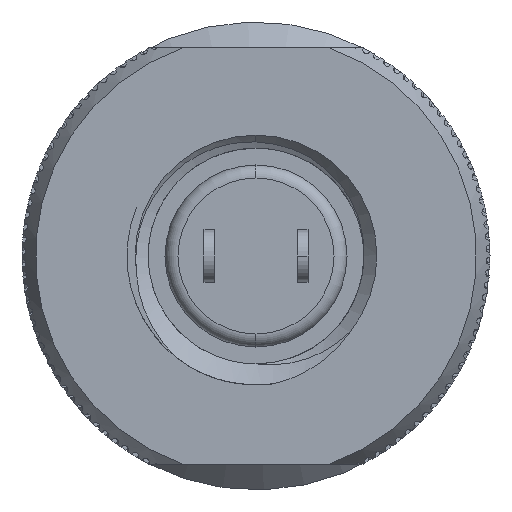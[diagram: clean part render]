
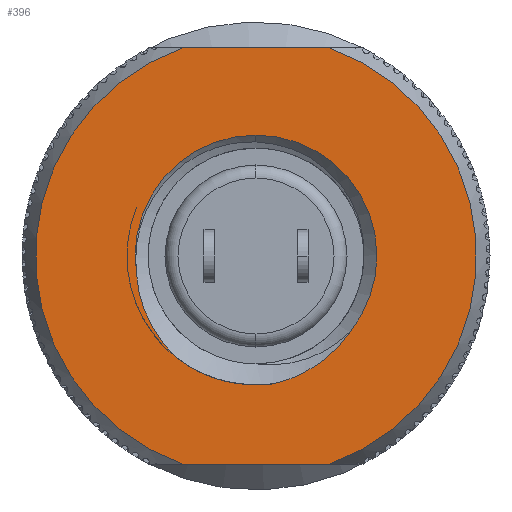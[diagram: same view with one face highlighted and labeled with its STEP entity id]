
A CAD part, front view. The second image highlights one B-rep face of the part: STEP entity #396.
In plain terms, the highlighted planar face has unit normal (0, -1, 0) as drawn and (0, 1, 0) by its records, which use the part's own axes.
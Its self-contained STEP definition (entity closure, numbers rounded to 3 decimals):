
#312 = DIRECTION ( 'NONE',  ( -1., 0., 0. ) ) ;
#396 = ADVANCED_FACE ( 'NONE', ( #5488, #5124 ), #18857, .T. ) ;
#470 = CARTESIAN_POINT ( 'NONE',  ( -4.65, 14.348, 0. ) ) ;
#589 = CARTESIAN_POINT ( 'NONE',  ( 0.768, 14.348, 4.586 ) ) ;
#1148 = EDGE_CURVE ( 'NONE', #6439, #2293, #4579, .T. ) ;
#1366 = CARTESIAN_POINT ( 'NONE',  ( 8., 14.348, 11.578 ) ) ;
#1416 = EDGE_CURVE ( 'NONE', #13871, #14166, #7498, .T. ) ;
#1490 = ORIENTED_EDGE ( 'NONE', *, *, #8226, .T. ) ;
#1795 = CIRCLE ( 'NONE', #11511, 4.65 ) ;
#1888 = DIRECTION ( 'NONE',  ( -1., 0., 0. ) ) ;
#2293 = VERTEX_POINT ( 'NONE', #20626 ) ;
#2348 = DIRECTION ( 'NONE',  ( 0., -1., 0. ) ) ;
#2822 = CARTESIAN_POINT ( 'NONE',  ( 4.758, 14.348, -1.252 ) ) ;
#3849 = AXIS2_PLACEMENT_3D ( 'NONE', #17059, #13110, #11343 ) ;
#3914 = CARTESIAN_POINT ( 'NONE',  ( 4.713, 14.348, 1.585 ) ) ;
#4146 = CARTESIAN_POINT ( 'NONE',  ( 4.317, 14.348, 2.467 ) ) ;
#4579 = CIRCLE ( 'NONE', #18800, 8.484 ) ;
#5124 = FACE_BOUND ( 'NONE', #18809, .T. ) ;
#5435 = CARTESIAN_POINT ( 'NONE',  ( 3.743, 14.348, 3.233 ) ) ;
#5488 = FACE_OUTER_BOUND ( 'NONE', #20587, .T. ) ;
#5508 = ORIENTED_EDGE ( 'NONE', *, *, #8568, .F. ) ;
#5612 = CARTESIAN_POINT ( 'NONE',  ( 2.932, 14.348, -3.609 ) ) ;
#5688 = ORIENTED_EDGE ( 'NONE', *, *, #16963, .T. ) ;
#5754 = CARTESIAN_POINT ( 'NONE',  ( 8., 14.348, -2.825 ) ) ;
#6201 = VERTEX_POINT ( 'NONE', #19757 ) ;
#6232 = DIRECTION ( 'NONE',  ( 0., 1., 0. ) ) ;
#6343 = VERTEX_POINT ( 'NONE', #589 ) ;
#6439 = VERTEX_POINT ( 'NONE', #7303 ) ;
#6778 = ORIENTED_EDGE ( 'NONE', *, *, #15198, .T. ) ;
#7303 = CARTESIAN_POINT ( 'NONE',  ( -8., 14.348, 2.825 ) ) ;
#7348 = CARTESIAN_POINT ( 'NONE',  ( 3.948, 14.348, 3.006 ) ) ;
#7498 = B_SPLINE_CURVE_WITH_KNOTS ( 'NONE', 3,
 ( #5612, #17307, #25060, #16800, #16371, #16629, #24261, #2822, #14473, #20452 ),
 .UNSPECIFIED., .F., .F.,
 ( 4, 2, 2, 2, 4 ),
 ( 0.005, 0.006, 0.007, 0.008, 0.009 ),
 .UNSPECIFIED. ) ;
#7710 = DIRECTION ( 'NONE',  ( 0., -1., 0. ) ) ;
#7724 = VERTEX_POINT ( 'NONE', #5754 ) ;
#8226 = EDGE_CURVE ( 'NONE', #14166, #9673, #22193, .T. ) ;
#8334 = CARTESIAN_POINT ( 'NONE',  ( 3.948, 14.348, 3.006 ) ) ;
#8358 = ORIENTED_EDGE ( 'NONE', *, *, #21823, .T. ) ;
#8491 = B_SPLINE_CURVE_WITH_KNOTS ( 'NONE', 3,
 ( #7348, #5435, #23107, #9386, #21431, #15460, #23344, #21071, #11771, #13185 ),
 .UNSPECIFIED., .F., .F.,
 ( 4, 2, 2, 2, 4 ),
 ( 0., 0.001, 0.002, 0.003, 0.004 ),
 .UNSPECIFIED. ) ;
#8568 = EDGE_CURVE ( 'NONE', #7724, #2293, #11003, .T. ) ;
#8895 = ORIENTED_EDGE ( 'NONE', *, *, #20990, .T. ) ;
#9386 = CARTESIAN_POINT ( 'NONE',  ( 3.043, 14.348, 3.806 ) ) ;
#9673 = VERTEX_POINT ( 'NONE', #12191 ) ;
#9952 = CARTESIAN_POINT ( 'NONE',  ( 0., 14.348, 0. ) ) ;
#10073 = DIRECTION ( 'NONE',  ( -1., 0., 0. ) ) ;
#11003 = LINE ( 'NONE', #1366, #16134 ) ;
#11343 = DIRECTION ( 'NONE',  ( -1., 0., 0. ) ) ;
#11379 = EDGE_CURVE ( 'NONE', #6439, #6201, #13898, .T. ) ;
#11511 = AXIS2_PLACEMENT_3D ( 'NONE', #17698, #2348, #312 ) ;
#11651 = CARTESIAN_POINT ( 'NONE',  ( 4.917, 14.348, -0.666 ) ) ;
#11771 = CARTESIAN_POINT ( 'NONE',  ( 1.071, 14.348, 4.563 ) ) ;
#11882 = CARTESIAN_POINT ( 'NONE',  ( 4.146, 14.348, 2.746 ) ) ;
#12191 = CARTESIAN_POINT ( 'NONE',  ( 3.948, 14.348, 3.006 ) ) ;
#13055 = CARTESIAN_POINT ( 'NONE',  ( 0., 14.348, 0. ) ) ;
#13110 = DIRECTION ( 'NONE',  ( 0., 1., 0. ) ) ;
#13185 = CARTESIAN_POINT ( 'NONE',  ( 0.768, 14.348, 4.586 ) ) ;
#13421 = CARTESIAN_POINT ( 'NONE',  ( 4.917, 14.348, -0.666 ) ) ;
#13447 = CARTESIAN_POINT ( 'NONE',  ( 2.932, 14.348, -3.609 ) ) ;
#13871 = VERTEX_POINT ( 'NONE', #13447 ) ;
#13898 = LINE ( 'NONE', #21787, #17945 ) ;
#14003 = DIRECTION ( 'NONE',  ( -1., 0., 0. ) ) ;
#14046 = CARTESIAN_POINT ( 'NONE',  ( 4.6, 14.348, 1.887 ) ) ;
#14166 = VERTEX_POINT ( 'NONE', #13421 ) ;
#14473 = CARTESIAN_POINT ( 'NONE',  ( 4.851, 14.348, -0.965 ) ) ;
#15198 = EDGE_CURVE ( 'NONE', #23244, #13871, #1795, .T. ) ;
#15460 = CARTESIAN_POINT ( 'NONE',  ( 2.238, 14.348, 4.24 ) ) ;
#15897 = CARTESIAN_POINT ( 'NONE',  ( 0., 14.348, 0. ) ) ;
#16075 = CARTESIAN_POINT ( 'NONE',  ( 4.963, 14.348, 0.641 ) ) ;
#16134 = VECTOR ( 'NONE', #16844, 1000. ) ;
#16371 = CARTESIAN_POINT ( 'NONE',  ( 4.035, 14.348, -2.579 ) ) ;
#16428 = CIRCLE ( 'NONE', #18896, 8.484 ) ;
#16629 = CARTESIAN_POINT ( 'NONE',  ( 4.375, 14.348, -2.075 ) ) ;
#16800 = CARTESIAN_POINT ( 'NONE',  ( 3.844, 14.348, -2.813 ) ) ;
#16844 = DIRECTION ( 'NONE',  ( 0., 0., 1. ) ) ;
#16963 = EDGE_CURVE ( 'NONE', #9673, #6343, #8491, .T. ) ;
#17055 = ORIENTED_EDGE ( 'NONE', *, *, #1416, .T. ) ;
#17059 = CARTESIAN_POINT ( 'NONE',  ( -9., 14.348, 0. ) ) ;
#17273 = CIRCLE ( 'NONE', #24164, 4.65 ) ;
#17307 = CARTESIAN_POINT ( 'NONE',  ( 3.182, 14.348, -3.44 ) ) ;
#17698 = CARTESIAN_POINT ( 'NONE',  ( 0., 14.348, 0. ) ) ;
#17945 = VECTOR ( 'NONE', #20154, 1000. ) ;
#18800 = AXIS2_PLACEMENT_3D ( 'NONE', #9952, #23667, #10073 ) ;
#18809 = EDGE_LOOP ( 'NONE', ( #8358, #6778, #17055, #1490, #5688 ) ) ;
#18857 = PLANE ( 'NONE',  #3849 ) ;
#18896 = AXIS2_PLACEMENT_3D ( 'NONE', #15897, #6232, #14003 ) ;
#19757 = CARTESIAN_POINT ( 'NONE',  ( -8., 14.348, -2.825 ) ) ;
#19893 = CARTESIAN_POINT ( 'NONE',  ( 5.005, 14.348, -0.02 ) ) ;
#20154 = DIRECTION ( 'NONE',  ( 0., 0., -1. ) ) ;
#20452 = CARTESIAN_POINT ( 'NONE',  ( 4.917, 14.348, -0.666 ) ) ;
#20587 = EDGE_LOOP ( 'NONE', ( #24023, #21086, #5508, #8895 ) ) ;
#20626 = CARTESIAN_POINT ( 'NONE',  ( 8., 14.348, 2.825 ) ) ;
#20990 = EDGE_CURVE ( 'NONE', #7724, #6201, #16428, .T. ) ;
#21071 = CARTESIAN_POINT ( 'NONE',  ( 1.374, 14.348, 4.509 ) ) ;
#21086 = ORIENTED_EDGE ( 'NONE', *, *, #1148, .T. ) ;
#21431 = CARTESIAN_POINT ( 'NONE',  ( 2.783, 14.348, 3.969 ) ) ;
#21787 = CARTESIAN_POINT ( 'NONE',  ( -8., 14.348, 11.578 ) ) ;
#21823 = EDGE_CURVE ( 'NONE', #6343, #23244, #17273, .T. ) ;
#22193 = B_SPLINE_CURVE_WITH_KNOTS ( 'NONE', 3,
 ( #11651, #19893, #16075, #3914, #14046, #4146, #11882, #8334 ),
 .UNSPECIFIED., .F., .F.,
 ( 4, 2, 2, 4 ),
 ( 0., 0.002, 0.003, 0.004 ),
 .UNSPECIFIED. ) ;
#23107 = CARTESIAN_POINT ( 'NONE',  ( 3.522, 14.348, 3.439 ) ) ;
#23244 = VERTEX_POINT ( 'NONE', #470 ) ;
#23344 = CARTESIAN_POINT ( 'NONE',  ( 1.956, 14.348, 4.348 ) ) ;
#23667 = DIRECTION ( 'NONE',  ( 0., 1., 0. ) ) ;
#24023 = ORIENTED_EDGE ( 'NONE', *, *, #11379, .F. ) ;
#24164 = AXIS2_PLACEMENT_3D ( 'NONE', #13055, #7710, #1888 ) ;
#24261 = CARTESIAN_POINT ( 'NONE',  ( 4.521, 14.348, -1.806 ) ) ;
#25060 = CARTESIAN_POINT ( 'NONE',  ( 3.418, 14.348, -3.242 ) ) ;
